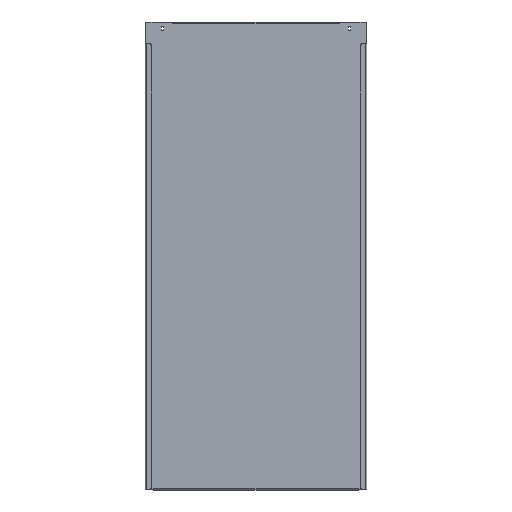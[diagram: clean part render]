
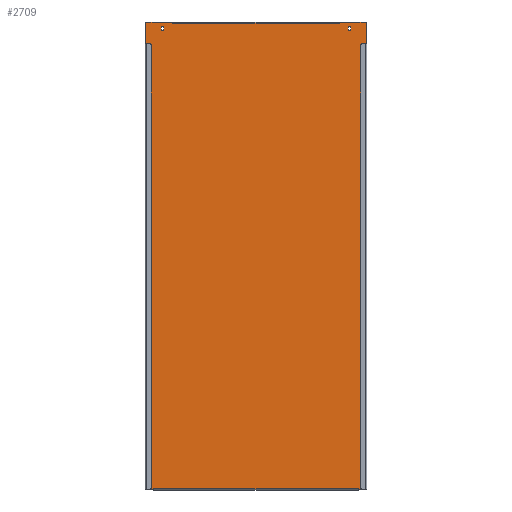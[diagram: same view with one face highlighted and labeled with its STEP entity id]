
A CAD part, front view. The second image highlights one B-rep face of the part: STEP entity #2709.
In plain terms, the highlighted planar face has unit normal (0, -1, 0).
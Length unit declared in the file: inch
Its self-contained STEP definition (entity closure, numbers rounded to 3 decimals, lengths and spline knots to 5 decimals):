
#333=DIRECTION('',(0.,0.,-1.));
#334=VECTOR('',#333,63.385);
#335=CARTESIAN_POINT('',(-15.574,-0.104,-2.948));
#336=LINE('',#335,#334);
#355=CARTESIAN_POINT('',(-13.2874,-0.104,-0.6905));
#356=DIRECTION('',(0.,1.,0.));
#357=DIRECTION('',(-1.,0.,0.));
#358=AXIS2_PLACEMENT_3D('',#355,#356,#357);
#363=DIRECTION('',(0.,0.,-1.));
#364=VECTOR('',#363,0.281);
#365=CARTESIAN_POINT('',(-13.4594,-0.104,-0.6905));
#366=LINE('',#365,#364);
#370=CARTESIAN_POINT('',(-13.2874,-0.104,-0.9715));
#371=DIRECTION('',(0.,1.,0.));
#372=DIRECTION('',(1.,0.,0.));
#373=AXIS2_PLACEMENT_3D('',#370,#371,#372);
#378=DIRECTION('',(0.,0.,1.));
#379=VECTOR('',#378,0.281);
#380=CARTESIAN_POINT('',(-13.1154,-0.104,-0.9715));
#381=LINE('',#380,#379);
#385=DIRECTION('',(0.,0.,-1.));
#386=VECTOR('',#385,0.281);
#387=CARTESIAN_POINT('',(13.1154,-0.104,-0.6905));
#388=LINE('',#387,#386);
#392=CARTESIAN_POINT('',(13.2874,-0.104,-0.9715));
#393=DIRECTION('',(0.,1.,0.));
#394=DIRECTION('',(1.,0.,0.));
#395=AXIS2_PLACEMENT_3D('',#392,#393,#394);
#400=DIRECTION('',(0.,0.,1.));
#401=VECTOR('',#400,0.281);
#402=CARTESIAN_POINT('',(13.4594,-0.104,-0.9715));
#403=LINE('',#402,#401);
#407=CARTESIAN_POINT('',(13.2874,-0.104,-0.6905));
#408=DIRECTION('',(0.,1.,0.));
#409=DIRECTION('',(-1.,0.,0.));
#410=AXIS2_PLACEMENT_3D('',#407,#408,#409);
#415=CARTESIAN_POINT('',(15.498,-0.104,-0.25));
#416=DIRECTION('',(0.,-1.,0.));
#417=DIRECTION('',(1.,0.,0.));
#418=AXIS2_PLACEMENT_3D('',#415,#416,#417);
#423=DIRECTION('',(0.,0.,-1.));
#424=VECTOR('',#423,2.698);
#425=CARTESIAN_POINT('',(15.748,-0.104,-0.25));
#426=LINE('',#425,#424);
#430=DIRECTION('',(-1.,0.,0.));
#431=VECTOR('',#430,0.174);
#432=CARTESIAN_POINT('',(15.748,-0.104,-2.948));
#433=LINE('',#432,#431);
#437=DIRECTION('',(-0.174,0.,0.985));
#438=VECTOR('',#437,0.12388);
#439=CARTESIAN_POINT('',(14.53511,-0.104,-66.333));
#440=LINE('',#439,#438);
#444=DIRECTION('',(1.,0.,0.));
#445=VECTOR('',#444,0.0156);
#446=CARTESIAN_POINT('',(14.498,-0.104,-66.211));
#447=LINE('',#446,#445);
#451=DIRECTION('',(-1.,0.,0.));
#452=VECTOR('',#451,0.0156);
#453=CARTESIAN_POINT('',(-14.498,-0.104,-66.211));
#454=LINE('',#453,#452);
#458=DIRECTION('',(0.174,0.,0.985));
#459=VECTOR('',#458,0.12388);
#460=CARTESIAN_POINT('',(-14.53511,-0.104,-66.333));
#461=LINE('',#460,#459);
#465=DIRECTION('',(-1.,0.,0.));
#466=VECTOR('',#465,0.174);
#467=CARTESIAN_POINT('',(-15.574,-0.104,-2.948));
#468=LINE('',#467,#466);
#472=DIRECTION('',(0.,0.,1.));
#473=VECTOR('',#472,2.698);
#474=CARTESIAN_POINT('',(-15.748,-0.104,-2.948));
#475=LINE('',#474,#473);
#479=CARTESIAN_POINT('',(-15.498,-0.104,-0.25));
#480=DIRECTION('',(0.,-1.,0.));
#481=DIRECTION('',(0.,0.,1.));
#482=AXIS2_PLACEMENT_3D('',#479,#480,#481);
#487=DIRECTION('',(0.174,0.,-0.985));
#488=VECTOR('',#487,0.12388);
#489=CARTESIAN_POINT('',(-11.82401,-0.104,0.));
#490=LINE('',#489,#488);
#494=DIRECTION('',(-1.,0.,0.));
#495=VECTOR('',#494,0.0156);
#496=CARTESIAN_POINT('',(-11.7869,-0.104,-0.122));
#497=LINE('',#496,#495);
#501=DIRECTION('',(1.,0.,0.));
#502=VECTOR('',#501,0.0156);
#503=CARTESIAN_POINT('',(11.7869,-0.104,-0.122));
#504=LINE('',#503,#502);
#508=DIRECTION('',(-0.174,0.,-0.985));
#509=VECTOR('',#508,0.12388);
#510=CARTESIAN_POINT('',(11.82401,-0.104,0.));
#511=LINE('',#510,#509);
#745=DIRECTION('',(-1.,0.,0.));
#746=VECTOR('',#745,3.67399);
#747=CARTESIAN_POINT('',(15.498,-0.104,0.));
#748=LINE('',#747,#746);
#780=DIRECTION('',(-1.,0.,0.));
#781=VECTOR('',#780,3.67399);
#782=CARTESIAN_POINT('',(-11.82401,-0.104,0.));
#783=LINE('',#782,#781);
#856=DIRECTION('',(-1.,0.,0.));
#857=VECTOR('',#856,23.5738);
#858=CARTESIAN_POINT('',(11.7869,-0.104,-0.122));
#859=LINE('',#858,#857);
#1148=DIRECTION('',(-1.,0.,0.));
#1149=VECTOR('',#1148,1.03889);
#1150=CARTESIAN_POINT('',(-14.53511,-0.104,-66.333));
#1151=LINE('',#1150,#1149);
#1162=DIRECTION('',(-1.,0.,0.));
#1163=VECTOR('',#1162,1.03889);
#1164=CARTESIAN_POINT('',(15.574,-0.104,-66.333));
#1165=LINE('',#1164,#1163);
#1230=DIRECTION('',(-1.,0.,0.));
#1231=VECTOR('',#1230,28.996);
#1232=CARTESIAN_POINT('',(14.498,-0.104,-66.211));
#1233=LINE('',#1232,#1231);
#1721=DIRECTION('',(0.,0.,-1.));
#1722=VECTOR('',#1721,63.385);
#1723=CARTESIAN_POINT('',(15.574,-0.104,-2.948));
#1724=LINE('',#1723,#1722);
#2008=CARTESIAN_POINT('',(-15.574,-0.104,-66.333));
#2010=VERTEX_POINT('',#2008);
#2011=CARTESIAN_POINT('',(15.574,-0.104,-66.333));
#2013=VERTEX_POINT('',#2011);
#2053=CARTESIAN_POINT('',(-11.7869,-0.104,-0.122));
#2054=CARTESIAN_POINT('',(-11.8025,-0.104,-0.122));
#2055=VERTEX_POINT('',#2053);
#2056=VERTEX_POINT('',#2054);
#2057=CARTESIAN_POINT('',(-11.82401,-0.104,0.));
#2058=VERTEX_POINT('',#2057);
#2065=CARTESIAN_POINT('',(11.7869,-0.104,-0.122));
#2066=CARTESIAN_POINT('',(11.8025,-0.104,-0.122));
#2067=VERTEX_POINT('',#2065);
#2068=VERTEX_POINT('',#2066);
#2069=CARTESIAN_POINT('',(11.82401,-0.104,0.));
#2070=VERTEX_POINT('',#2069);
#2093=CARTESIAN_POINT('',(-14.498,-0.104,-66.211));
#2094=CARTESIAN_POINT('',(-14.5136,-0.104,-66.211));
#2095=VERTEX_POINT('',#2093);
#2096=VERTEX_POINT('',#2094);
#2097=CARTESIAN_POINT('',(-14.53511,-0.104,-66.333));
#2098=VERTEX_POINT('',#2097);
#2105=CARTESIAN_POINT('',(14.498,-0.104,-66.211));
#2106=CARTESIAN_POINT('',(14.5136,-0.104,-66.211));
#2107=VERTEX_POINT('',#2105);
#2108=VERTEX_POINT('',#2106);
#2109=CARTESIAN_POINT('',(14.53511,-0.104,-66.333));
#2110=VERTEX_POINT('',#2109);
#2207=CARTESIAN_POINT('',(13.1154,-0.104,-0.6905));
#2208=CARTESIAN_POINT('',(13.1154,-0.104,-0.9715));
#2209=VERTEX_POINT('',#2207);
#2210=VERTEX_POINT('',#2208);
#2211=CARTESIAN_POINT('',(13.4594,-0.104,-0.9715));
#2212=VERTEX_POINT('',#2211);
#2213=CARTESIAN_POINT('',(13.4594,-0.104,-0.6905));
#2214=VERTEX_POINT('',#2213);
#2215=CARTESIAN_POINT('',(-13.4594,-0.104,-0.6905));
#2216=CARTESIAN_POINT('',(-13.1154,-0.104,-0.6905));
#2217=VERTEX_POINT('',#2215);
#2218=VERTEX_POINT('',#2216);
#2219=CARTESIAN_POINT('',(-13.4594,-0.104,-0.9715));
#2220=VERTEX_POINT('',#2219);
#2221=CARTESIAN_POINT('',(-13.1154,-0.104,-0.9715));
#2222=VERTEX_POINT('',#2221);
#2279=CARTESIAN_POINT('',(-15.574,-0.104,-2.948));
#2280=VERTEX_POINT('',#2279);
#2281=CARTESIAN_POINT('',(15.574,-0.104,-2.948));
#2282=VERTEX_POINT('',#2281);
#2287=CARTESIAN_POINT('',(-15.748,-0.104,-2.948));
#2288=VERTEX_POINT('',#2287);
#2291=CARTESIAN_POINT('',(15.748,-0.104,-2.948));
#2292=VERTEX_POINT('',#2291);
#2303=CARTESIAN_POINT('',(15.748,-0.104,-0.25));
#2304=CARTESIAN_POINT('',(15.498,-0.104,0.));
#2305=VERTEX_POINT('',#2303);
#2306=VERTEX_POINT('',#2304);
#2311=CARTESIAN_POINT('',(-15.498,-0.104,0.));
#2312=CARTESIAN_POINT('',(-15.748,-0.104,-0.25));
#2313=VERTEX_POINT('',#2311);
#2314=VERTEX_POINT('',#2312);
#2639=CARTESIAN_POINT('',(15.748,-0.104,0.));
#2640=DIRECTION('',(0.,1.,0.));
#2641=DIRECTION('',(-1.,0.,0.));
#2642=AXIS2_PLACEMENT_3D('',#2639,#2640,#2641);
#2643=PLANE('',#2642);
#2645=ORIENTED_EDGE('',*,*,#2644,.F.);
#2647=ORIENTED_EDGE('',*,*,#2646,.T.);
#2649=ORIENTED_EDGE('',*,*,#2648,.T.);
#2651=ORIENTED_EDGE('',*,*,#2650,.T.);
#2653=ORIENTED_EDGE('',*,*,#2652,.T.);
#2655=ORIENTED_EDGE('',*,*,#2654,.T.);
#2657=ORIENTED_EDGE('',*,*,#2656,.F.);
#2659=ORIENTED_EDGE('',*,*,#2658,.T.);
#2661=ORIENTED_EDGE('',*,*,#2660,.T.);
#2663=ORIENTED_EDGE('',*,*,#2662,.F.);
#2665=ORIENTED_EDGE('',*,*,#2664,.T.);
#2666=ORIENTED_EDGE('',*,*,#2632,.F.);
#2668=ORIENTED_EDGE('',*,*,#2667,.T.);
#2670=ORIENTED_EDGE('',*,*,#2669,.T.);
#2672=ORIENTED_EDGE('',*,*,#2671,.F.);
#2674=ORIENTED_EDGE('',*,*,#2673,.F.);
#2676=ORIENTED_EDGE('',*,*,#2675,.T.);
#2678=ORIENTED_EDGE('',*,*,#2677,.F.);
#2680=ORIENTED_EDGE('',*,*,#2679,.F.);
#2682=ORIENTED_EDGE('',*,*,#2681,.T.);
#2684=ORIENTED_EDGE('',*,*,#2683,.F.);
#2686=ORIENTED_EDGE('',*,*,#2685,.F.);
#2687=EDGE_LOOP('',(#2645,#2647,#2649,#2651,#2653,#2655,#2657,#2659,#2661,#2663,
#2665,#2666,#2668,#2670,#2672,#2674,#2676,#2678,#2680,#2682,#2684,#2686));
#2688=FACE_OUTER_BOUND('',#2687,.F.);
#2690=ORIENTED_EDGE('',*,*,#2689,.T.);
#2692=ORIENTED_EDGE('',*,*,#2691,.F.);
#2694=ORIENTED_EDGE('',*,*,#2693,.T.);
#2696=ORIENTED_EDGE('',*,*,#2695,.F.);
#2697=EDGE_LOOP('',(#2690,#2692,#2694,#2696));
#2698=FACE_BOUND('',#2697,.F.);
#2700=ORIENTED_EDGE('',*,*,#2699,.F.);
#2702=ORIENTED_EDGE('',*,*,#2701,.T.);
#2704=ORIENTED_EDGE('',*,*,#2703,.F.);
#2706=ORIENTED_EDGE('',*,*,#2705,.T.);
#2707=EDGE_LOOP('',(#2700,#2702,#2704,#2706));
#2708=FACE_BOUND('',#2707,.F.);
#359=CIRCLE('',#358,0.172);
#374=CIRCLE('',#373,0.172);
#396=CIRCLE('',#395,0.172);
#411=CIRCLE('',#410,0.172);
#419=CIRCLE('',#418,0.25);
#483=CIRCLE('',#482,0.25);
#2632=EDGE_CURVE('',#2280,#2010,#336,.T.);
#2644=EDGE_CURVE('',#2305,#2306,#419,.T.);
#2646=EDGE_CURVE('',#2305,#2292,#426,.T.);
#2648=EDGE_CURVE('',#2292,#2282,#433,.T.);
#2650=EDGE_CURVE('',#2282,#2013,#1724,.T.);
#2652=EDGE_CURVE('',#2013,#2110,#1165,.T.);
#2654=EDGE_CURVE('',#2110,#2108,#440,.T.);
#2656=EDGE_CURVE('',#2107,#2108,#447,.T.);
#2658=EDGE_CURVE('',#2107,#2095,#1233,.T.);
#2660=EDGE_CURVE('',#2095,#2096,#454,.T.);
#2662=EDGE_CURVE('',#2098,#2096,#461,.T.);
#2664=EDGE_CURVE('',#2098,#2010,#1151,.T.);
#2667=EDGE_CURVE('',#2280,#2288,#468,.T.);
#2669=EDGE_CURVE('',#2288,#2314,#475,.T.);
#2671=EDGE_CURVE('',#2313,#2314,#483,.T.);
#2673=EDGE_CURVE('',#2058,#2313,#783,.T.);
#2675=EDGE_CURVE('',#2058,#2056,#490,.T.);
#2677=EDGE_CURVE('',#2055,#2056,#497,.T.);
#2679=EDGE_CURVE('',#2067,#2055,#859,.T.);
#2681=EDGE_CURVE('',#2067,#2068,#504,.T.);
#2683=EDGE_CURVE('',#2070,#2068,#511,.T.);
#2685=EDGE_CURVE('',#2306,#2070,#748,.T.);
#2689=EDGE_CURVE('',#2209,#2210,#388,.T.);
#2691=EDGE_CURVE('',#2212,#2210,#396,.T.);
#2693=EDGE_CURVE('',#2212,#2214,#403,.T.);
#2695=EDGE_CURVE('',#2209,#2214,#411,.T.);
#2699=EDGE_CURVE('',#2217,#2218,#359,.T.);
#2701=EDGE_CURVE('',#2217,#2220,#366,.T.);
#2703=EDGE_CURVE('',#2222,#2220,#374,.T.);
#2705=EDGE_CURVE('',#2222,#2218,#381,.T.);
#2709=ADVANCED_FACE('',(#2688,#2698,#2708),#2643,.F.);
